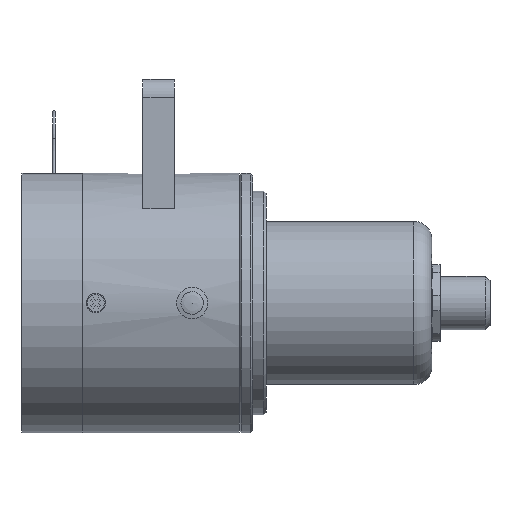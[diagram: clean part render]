
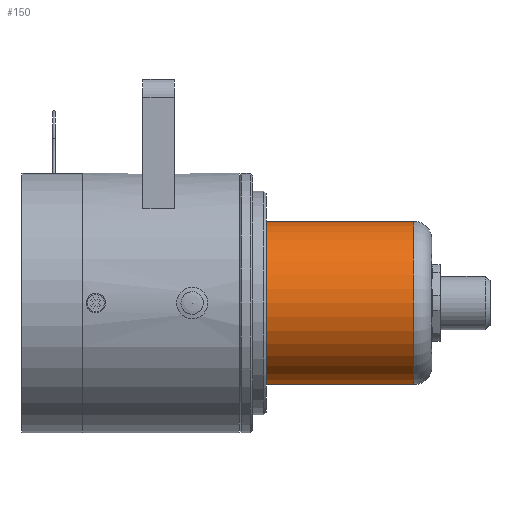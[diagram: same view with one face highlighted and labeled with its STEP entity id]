
A CAD part, front view. The second image highlights one B-rep face of the part: STEP entity #150.
In plain terms, the highlighted cylindrical face has radius 18.25 mm (diameter 36.5 mm), a full revolution.
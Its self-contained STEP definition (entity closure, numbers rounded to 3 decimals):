
#150 = ADVANCED_FACE( '', ( #459, #460 ), #461, .T. );
#459 = FACE_OUTER_BOUND( '', #907, .T. );
#460 = FACE_OUTER_BOUND( '', #908, .T. );
#461 = CYLINDRICAL_SURFACE( '', #909, 18.25 );
#907 = EDGE_LOOP( '', ( #1666 ) );
#908 = EDGE_LOOP( '', ( #1667 ) );
#909 = AXIS2_PLACEMENT_3D( '', #1668, #1669, #1670 );
#1666 = ORIENTED_EDGE( '', *, *, #2647, .F. );
#1667 = ORIENTED_EDGE( '', *, *, #2648, .T. );
#1668 = CARTESIAN_POINT( '', ( 91.5, 0., 0. ) );
#1669 = DIRECTION( '', ( -1., 0., 0. ) );
#1670 = DIRECTION( '', ( 0., 0., -1. ) );
#2647 = EDGE_CURVE( '', #3185, #3185, #3186, .T. );
#2648 = EDGE_CURVE( '', #3187, #3187, #3188, .T. );
#3185 = VERTEX_POINT( '', #4346 );
#3186 = CIRCLE( '', #4347, 18.25 );
#3187 = VERTEX_POINT( '', #4348 );
#3188 = CIRCLE( '', #4349, 18.25 );
#4346 = CARTESIAN_POINT( '', ( 87.5, 0., -18.25 ) );
#4347 = AXIS2_PLACEMENT_3D( '', #5096, #5097, #5098 );
#4348 = CARTESIAN_POINT( '', ( 54.5, 0., -18.25 ) );
#4349 = AXIS2_PLACEMENT_3D( '', #5099, #5100, #5101 );
#5096 = CARTESIAN_POINT( '', ( 87.5, 0., 0. ) );
#5097 = DIRECTION( '', ( 1., 0., 0. ) );
#5098 = DIRECTION( '', ( 0., 0., -1. ) );
#5099 = CARTESIAN_POINT( '', ( 54.5, 0., 0. ) );
#5100 = DIRECTION( '', ( 1., 0., 0. ) );
#5101 = DIRECTION( '', ( 0., 0., -1. ) );
